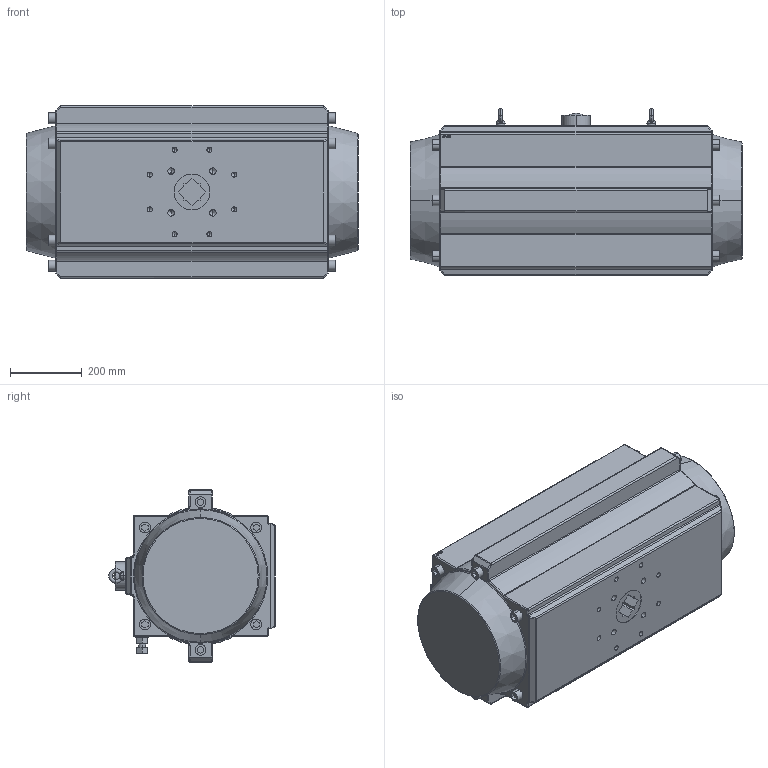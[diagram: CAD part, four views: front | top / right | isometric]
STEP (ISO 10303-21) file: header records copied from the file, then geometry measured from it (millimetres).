
FILE_DESCRIPTION (( 'STEP AP203' ), '1' );
FILE_NAME ('AP400.STEP', '2020-04-08T11:55:09', ( '' ), ( '' ), 'SwSTEP 2.0', 'SolidWorks 2017', '' );
FILE_SCHEMA (( 'CONFIG_CONTROL_DESIGN' ));
Length unit declared in the file: millimetre
Products named in the file (1): AP400
Bounding box: 925 x 464 x 480 mm (x, y, z)
Volume: 127077220.3 mm3; surface area: 1780496.9 mm2
Topology: 1 solids, 1 shells, 663 faces, 1577 edges, 937 vertices
Faces by surface type: plane 252, cylinder 180, cone 84, bspline 65, torus 64, sphere 18
Entity records: 22784 total; most frequent: CARTESIAN_POINT 7943, DIRECTION 3051, ORIENTED_EDGE 3042, EDGE_CURVE 1521, AXIS2_PLACEMENT_3D 1113, VERTEX_POINT 937, VECTOR 825, LINE 825
